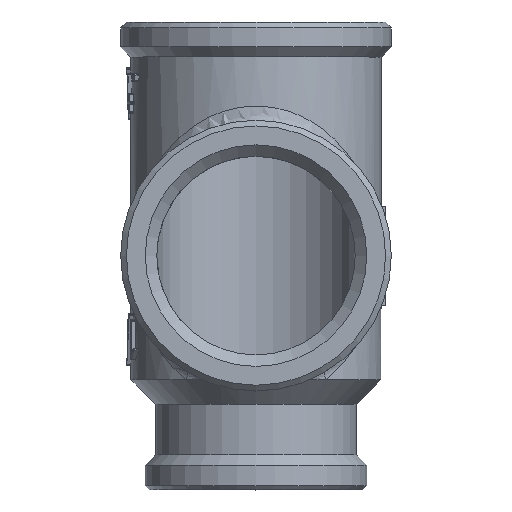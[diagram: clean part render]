
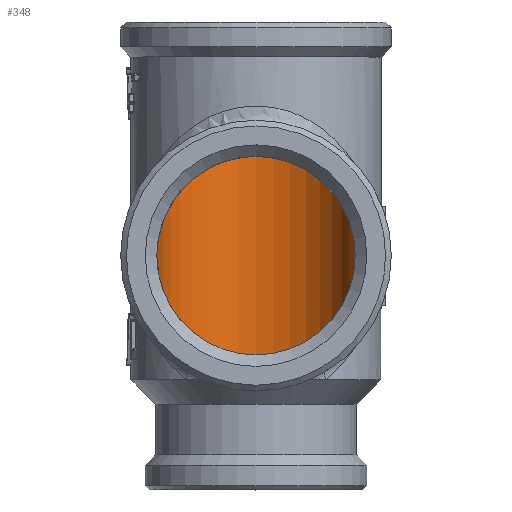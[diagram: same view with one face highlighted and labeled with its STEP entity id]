
A CAD part, top view. The second image highlights one B-rep face of the part: STEP entity #348.
In plain terms, the highlighted cylindrical face has radius 12.1 mm (diameter 24.2 mm), a full revolution.
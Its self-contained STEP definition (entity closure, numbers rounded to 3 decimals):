
#348=ADVANCED_FACE('',(#2763,#2765,#2767),#2769,.F.);
#2763=FACE_BOUND('',#2764,.T.);
#2764=EDGE_LOOP('',(#5298,#5299,#5300));
#2765=FACE_OUTER_BOUND('',#2766,.T.);
#2766=EDGE_LOOP('',(#5301));
#2767=FACE_OUTER_BOUND('',#2768,.T.);
#2768=EDGE_LOOP('',(#5302));
#2769=CYLINDRICAL_SURFACE('',#2770,12.1);
#2770=AXIS2_PLACEMENT_3D('',#2771,#2772,#2773);
#2771=CARTESIAN_POINT('',(0.,-13.1,0.));
#2772=DIRECTION('',(0.,1.,0.));
#2773=DIRECTION('',(-1.,0.,0.));
#5298=ORIENTED_EDGE('',*,*,#6458,.T.);
#5299=ORIENTED_EDGE('',*,*,#6457,.T.);
#5300=ORIENTED_EDGE('',*,*,#6456,.T.);
#5301=ORIENTED_EDGE('',*,*,#6453,.T.);
#5302=ORIENTED_EDGE('',*,*,#6460,.T.);
#6453=EDGE_CURVE('',#8017,#8017,#8018,.T.);
#6456=EDGE_CURVE('',#8021,#8022,#8023,.T.);
#6457=EDGE_CURVE('',#8024,#8021,#8025,.T.);
#6458=EDGE_CURVE('',#8022,#8024,#8026,.F.);
#6460=EDGE_CURVE('',#8029,#8029,#8030,.F.);
#8017=VERTEX_POINT('',#15202);
#8018=CIRCLE('',#15203,12.1);
#8021=VERTEX_POINT('',#15213);
#8022=VERTEX_POINT('',#15214);
#8023=(BOUNDED_CURVE()B_SPLINE_CURVE(3,
(#15215,#15216,#15217,#15218),
.UNSPECIFIED.,.F.,.F.)B_SPLINE_CURVE_WITH_KNOTS((4,4),
(0.,1.),
.UNSPECIFIED.)CURVE()GEOMETRIC_REPRESENTATION_ITEM()RATIONAL_B_SPLINE_CURVE((1.,
0.805,0.805,1.))REPRESENTATION_ITEM(''));
#8024=VERTEX_POINT('',#15219);
#8025=(BOUNDED_CURVE()B_SPLINE_CURVE(3,
(#15220,#15221,#15222,#15223),
.UNSPECIFIED.,.F.,.F.)B_SPLINE_CURVE_WITH_KNOTS((4,4),
(0.,1.),
.UNSPECIFIED.)CURVE()GEOMETRIC_REPRESENTATION_ITEM()RATIONAL_B_SPLINE_CURVE((1.,
0.805,0.805,1.))REPRESENTATION_ITEM(''));
#8026=(BOUNDED_CURVE()B_SPLINE_CURVE(3,
(#15224,#15225,#15226,#15227),
.UNSPECIFIED.,.F.,.F.)B_SPLINE_CURVE_WITH_KNOTS((4,4),
(0.,1.),
.UNSPECIFIED.)CURVE()GEOMETRIC_REPRESENTATION_ITEM()RATIONAL_B_SPLINE_CURVE((1.,
0.333,0.333,1.))REPRESENTATION_ITEM(''));
#8029=VERTEX_POINT('',#15233);
#8030=CIRCLE('',#15234,12.1);
#15202=CARTESIAN_POINT('',(-12.1,27.1,0.));
#15203=AXIS2_PLACEMENT_3D('',#15204,#15205,#15206);
#15204=CARTESIAN_POINT('',(0.,27.1,0.));
#15205=DIRECTION('',(0.,1.,0.));
#15206=DIRECTION('',(-1.,0.,0.));
#15213=CARTESIAN_POINT('',(0.,-12.1,12.1));
#15214=CARTESIAN_POINT('',(12.1,0.,0.));
#15215=CARTESIAN_POINT('',(0.,-12.1,12.1));
#15216=CARTESIAN_POINT('',(7.088,-12.1,12.1));
#15217=CARTESIAN_POINT('',(12.1,-7.088,7.088));
#15218=CARTESIAN_POINT('',(12.1,0.,0.));
#15219=CARTESIAN_POINT('',(-12.1,0.,0.));
#15220=CARTESIAN_POINT('',(-12.1,0.,0.));
#15221=CARTESIAN_POINT('',(-12.1,-7.088,7.088));
#15222=CARTESIAN_POINT('',(-7.088,-12.1,12.1));
#15223=CARTESIAN_POINT('',(0.,-12.1,12.1));
#15224=CARTESIAN_POINT('',(-12.1,0.,0.));
#15225=CARTESIAN_POINT('',(-12.1,24.2,24.2));
#15226=CARTESIAN_POINT('',(12.1,24.2,24.2));
#15227=CARTESIAN_POINT('',(12.1,0.,0.));
#15233=CARTESIAN_POINT('',(-12.1,-13.116,0.));
#15234=AXIS2_PLACEMENT_3D('',#15235,#15236,#15237);
#15235=CARTESIAN_POINT('',(0.,-13.116,0.));
#15236=DIRECTION('',(0.,1.,0.));
#15237=DIRECTION('',(-1.,0.,0.));
